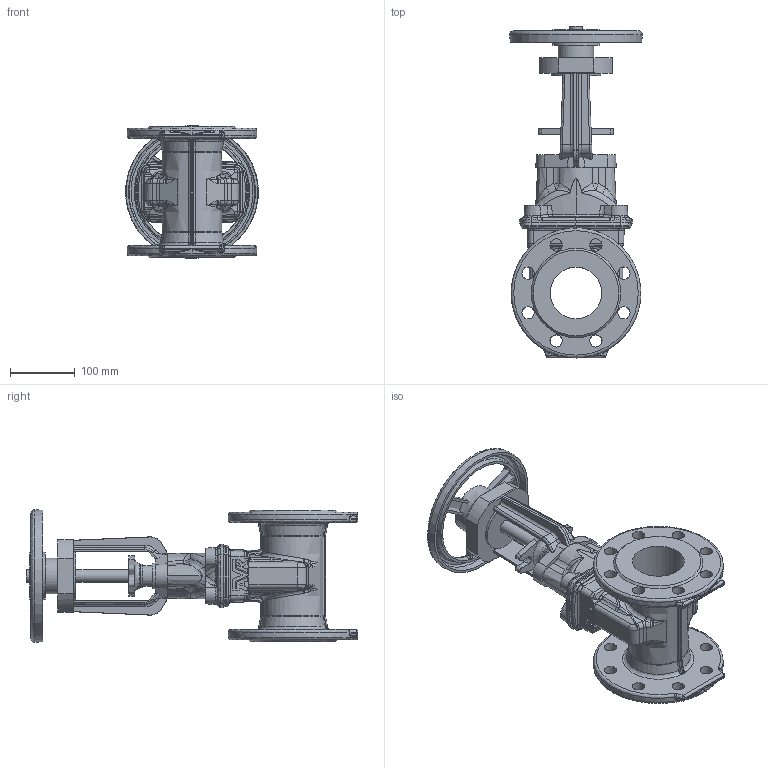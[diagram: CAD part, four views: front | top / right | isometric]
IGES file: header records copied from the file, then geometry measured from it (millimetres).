
Start section: SolidWorks IGES file using analytic representation for surfaces
Global section: file name: \\avksan2\techshare\PBM outline export from Enovia\O_21_34_DN080_41XXXXX close_AA0.igs; native system: SolidWorks 2012; preprocessor: SolidWorks 2012; author: pbm; date: 200212.100118; units: millimetre
Bounding box: 204.26 x 511.87 x 204.26 mm (x, y, z)
Surface area: 472529.7 mm2 (no closed solid volume)
Topology: 0 solids, 0 shells, 905 faces, 4646 edges, 4542 vertices
Faces by surface type: bspline 506, revolution 399
